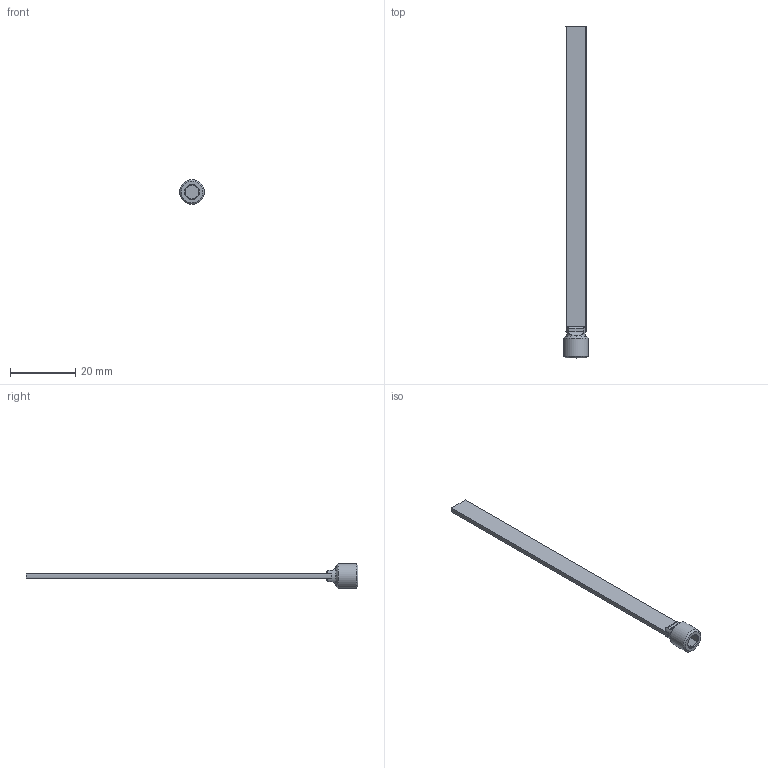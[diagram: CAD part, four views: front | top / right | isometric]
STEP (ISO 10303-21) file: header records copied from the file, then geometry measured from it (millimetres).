
FILE_DESCRIPTION(/* description */ (''),/* implementation_level */ '2;1');
FILE_NAME(/* name */ 'C:/Users/drich/Desktop/SB16X4 v1.step',/* time_stamp */ '2019-12-29T15:52:12-06:00',/* author */ (''),/* organization */ (''),/* preprocessor_version */ 'ST-DEVELOPER v18',/* originating_system */ 'Autodesk Translation Framework v8.12.0.6',/* authorisation */ '');
FILE_SCHEMA (('AUTOMOTIVE_DESIGN { 1 0 10303 214 3 1 1 }'));
Length unit declared in the file: inch
Products named in the file (1): SB16X4
Bounding box: 7.62 x 101.6 x 7.62 mm (x, y, z)
Volume: 1102.8 mm3; surface area: 1733.8 mm2
Topology: 1 solids, 1 shells, 42 faces, 111 edges, 73 vertices
Faces by surface type: plane 20, cylinder 9, cone 8, torus 5
Full cylindrical faces by diameter (mm): 7.616 x1
Entity records: 1453 total; most frequent: CARTESIAN_POINT 383, ORIENTED_EDGE 222, DIRECTION 209, EDGE_CURVE 111, AXIS2_PLACEMENT_3D 77, VERTEX_POINT 73, LINE 55, VECTOR 55
